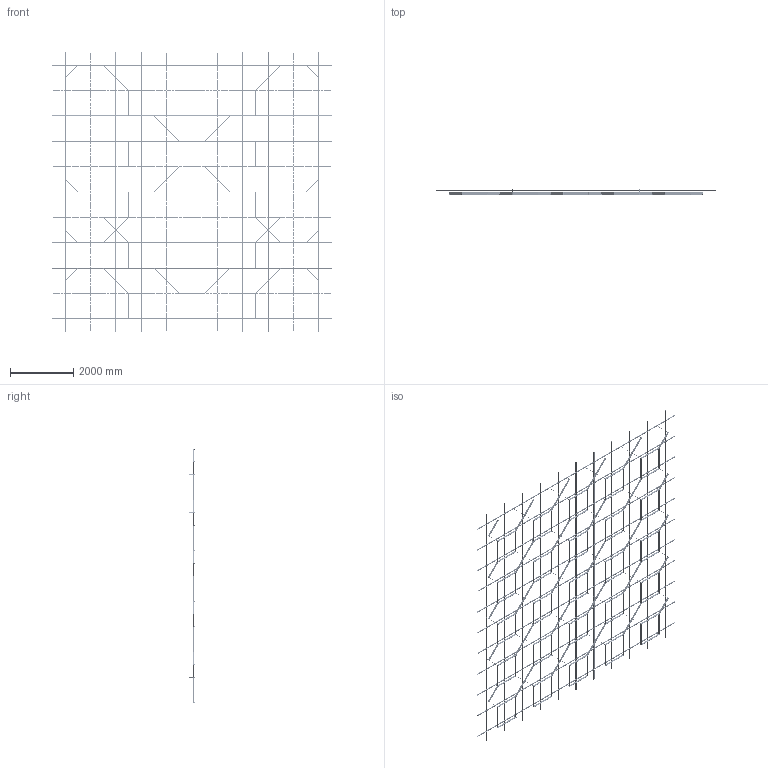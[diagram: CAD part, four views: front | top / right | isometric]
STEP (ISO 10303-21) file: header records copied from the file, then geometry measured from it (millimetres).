
FILE_DESCRIPTION (( 'STEP AP203' ), '1' );
FILE_NAME ('9 ìèíè ñ ïñ.step', '2025-11-25T13:29:29', ( '' ), ( '' ), 'SwSTEP 2.0', 'SolidWorks 2020', '' );
FILE_SCHEMA (( 'CONFIG_CONTROL_DESIGN' ));
Length unit declared in the file: millimetre
Products named in the file (5): SS.SEMA.2400 - Ñèìà-ïðîôèëü; SS.SEMA.2400 - Ñèìà-ïðîôèëü — îáðåçàí 1600; Var9; Ñèñòåìà â çîíå 8000õ8000; 9 ìèíè ñ ïñ
Assembly tree (90 placements, depth 3):
  9 ìèíè ñ ïñ
    Ñèñòåìà â çîíå 8000õ8000
      SS.SEMA.2400 - Ñèìà-ïðîôèëü  x66
      SS.SEMA.2400 - Ñèìà-ïðîôèëü — îáðåçàí 1600  x22
    Var9
Bounding box: 8800 x 158 x 8800 mm (x, y, z)
Volume: 75153913.8 mm3; surface area: 44657183.3 mm2
Topology: 848 solids, 848 shells, 19940 faces, 53324 edges, 35080 vertices
Faces by surface type: cylinder 12978, plane 6962
Entity records: 94031 total; most frequent: CARTESIAN_POINT 21834, DIRECTION 13714, ORIENTED_EDGE 13496, EDGE_CURVE 6748, AXIS2_PLACEMENT_3D 6608, VERTEX_POINT 4488, EDGE_LOOP 3946, FACE_OUTER_BOUND 3784
